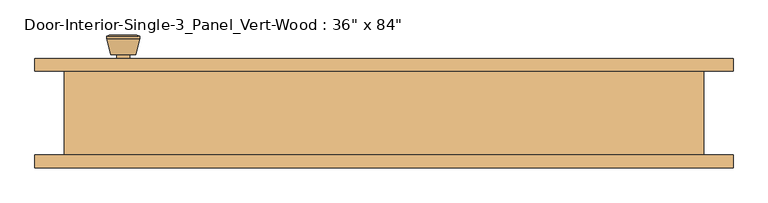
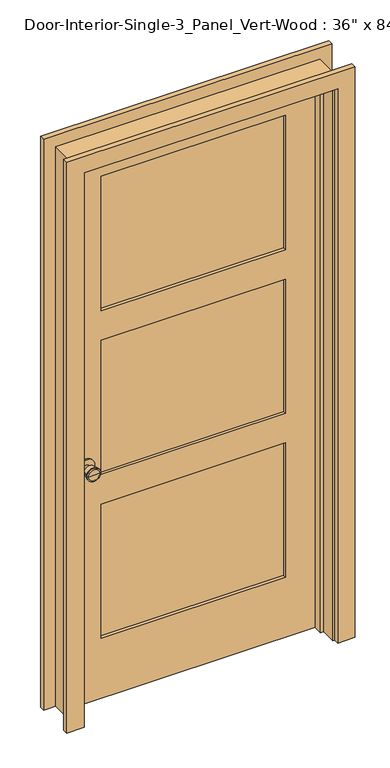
"""IFC4 building model written with IfcOpenShell, lengths in millimetres: door geometry."""

from ifc_helpers import new_model, si_unit, point, frame, frame_2d, origin, place, context, project, spatial, polyline, circle_curve, trimmed, segment, composite_curve, outline, extrude, faceted_brep, source, transform, mapped, element, save
from ifc_brep_helpers import plane_surface, cylinder_surface, revolved_surface, advanced_brep


def door_074fb280(model_context):
    return source(origin(), model_context, "Body", "SolidModel", [
        advanced_brep(
        [(-393.7, 19.4, 914.4), (-383.7, 19.4, 914.4), (-403.7, 19.4, 914.4), (-373.2241324, -29.6, 914.4), (-393.7, -29.6, 914.4), (-414.1758676, -29.6, 914.4), (-368.7, -27.7721319, 914.4), (-418.7, -27.7721319, 914.4), (-368.7, -24.3084537, 914.4), (-418.7, -24.3084537, 914.4), (-375.063764, 0.4, 914.4), (-412.336236, 0.4, 914.4), (-383.7, 0.4, 914.4), (-403.7, 0.4, 914.4)],
        [
            (0, 1),
            (1, 2, circle_curve(frame((-393.7, 19.4, 914.4), z_axis=(0.0, 1.0, 0.0), x_axis=(-1.0, 0.0, 0.0)), 10.0)),
            (2, 0),
            (2, 1, circle_curve(frame((-393.7, 19.4, 914.4), z_axis=(0.0, 1.0, 0.0), x_axis=(-1.0, 0.0, 0.0)), 10.0)),
            (3, 4),
            (4, 5),
            (5, 3, circle_curve(frame((-393.7, -29.6, 914.4), z_axis=(0.0, -1.0, 0.0), x_axis=(-1.0, 0.0, 0.0)), 20.4758676)),
            (3, 5, circle_curve(frame((-393.7, -29.6, 914.4), z_axis=(0.0, -1.0, 0.0), x_axis=(-1.0, 0.0, 0.0)), 20.4758676)),
            (6, 3),
            (5, 7),
            (7, 6, circle_curve(frame((-393.7, -27.7721319, 914.4), z_axis=(0.0, -1.0, 0.0), x_axis=(-1.0, 0.0, 0.0)), 25.0)),
            (6, 7, circle_curve(frame((-393.7, -27.7721319, 914.4), z_axis=(0.0, -1.0, 0.0), x_axis=(-1.0, 0.0, 0.0)), 25.0)),
            (8, 6),
            (7, 9),
            (9, 8, circle_curve(frame((-393.7, -24.3084537, 914.4), z_axis=(0.0, -1.0, 0.0), x_axis=(-1.0, 0.0, 0.0)), 25.0)),
            (8, 9, circle_curve(frame((-393.7, -24.3084537, 914.4), z_axis=(0.0, -1.0, 0.0), x_axis=(-1.0, 0.0, 0.0)), 25.0)),
            (10, 8),
            (9, 11),
            (11, 10, circle_curve(frame((-393.7, 0.4, 914.4), z_axis=(0.0, -1.0, 0.0), x_axis=(-1.0, 0.0, 0.0)), 18.636236)),
            (10, 11, circle_curve(frame((-393.7, 0.4, 914.4), z_axis=(0.0, -1.0, 0.0), x_axis=(-1.0, 0.0, 0.0)), 18.636236)),
            (12, 10),
            (11, 13),
            (13, 12, circle_curve(frame((-393.7, 0.4, 914.4), z_axis=(0.0, -1.0, 0.0), x_axis=(-1.0, 0.0, 0.0)), 10.0)),
            (12, 13, circle_curve(frame((-393.7, 0.4, 914.4), z_axis=(0.0, -1.0, 0.0), x_axis=(-1.0, 0.0, 0.0)), 10.0)),
            (1, 12),
            (13, 2),
        ],
        [
            plane_surface(frame((-393.7, 19.4, 914.4), z_axis=(0.0, 1.0, 0.0), x_axis=(-1.0, 0.0, 0.0))),
            plane_surface(frame((-393.7, -29.6, 914.4), z_axis=(0.0, -1.0, 0.0), x_axis=(-1.0, 0.0, 0.0))),
            revolved_surface(polyline([(-414.1758676, -29.6, 914.4), (-418.7, -27.7721319, 914.4)]), (-393.7, 19.4, 914.4), (0.0, 1.0, 0.0)),
            cylinder_surface(frame((-393.7, 19.4, 914.4), z_axis=(0.0, 1.0, 0.0), x_axis=(-1.0, 0.0, 0.0)), 25.0),
            revolved_surface(polyline([(-418.7, -24.3084537, 914.4), (-412.336236, 0.4, 914.4)]), (-393.7, 19.4, 914.4), (0.0, 1.0, 0.0)),
            plane_surface(frame((-393.7, 0.4, 914.4), z_axis=(0.0, 1.0, 0.0), x_axis=(-1.0, 0.0, 0.0))),
            cylinder_surface(frame((-393.7, 19.4, 914.4), z_axis=(0.0, 1.0, 0.0), x_axis=(-1.0, 0.0, 0.0)), 10.0),
        ],
        [
            (0, [[1, 2, 3]]),
            (0, [[-3, 4, -1]]),
            (1, [[5, 6, 7]]),
            (1, [[-6, -5, 8]]),
            (2, [[9, -7, 10, 11]]),
            (2, [[-10, -8, -9, 12]]),
            (3, [[13, -11, 14, 15]]),
            (3, [[-14, -12, -13, 16]]),
            (4, [[17, -15, 18, 19]]),
            (4, [[-18, -16, -17, 20]]),
            (5, [[21, -19, 22, 23]]),
            (5, [[-22, -20, -21, 24]]),
            (6, [[25, -23, 26, -2]]),
            (6, [[-26, -24, -25, -4]]),
        ],
    ),
        extrude(outline(composite_curve([segment(trimmed(circle_curve(frame_2d((914.4, -393.7)), 30.0), [point((914.4, -423.7))], [point((914.4, -363.7))], False, "CARTESIAN"), True, "CONTINUOUS"), segment(trimmed(circle_curve(frame_2d((914.4, -393.7)), 30.0), [point((914.4, -363.7))], [point((914.4, -423.7))], False, "CARTESIAN"), True, "CONTINUOUS")], self_intersect=False)), frame((0.0, 19.4, 0.0), z_axis=(0.0, 1.0, 0.0), x_axis=(0.0, 0.0, 1.0)), (0.0, 0.0, 1.0), 6.0),
        advanced_brep(
        [(-393.7, 66.325, 914.4), (-403.7, 66.325, 914.4), (-383.7, 66.325, 914.4), (-373.2241324, 115.325, 914.4), (-414.1758676, 115.325, 914.4), (-393.7, 115.325, 914.4), (-368.7, 113.4971319, 914.4), (-418.7, 113.4971319, 914.4), (-368.7, 110.0334537, 914.4), (-418.7, 110.0334537, 914.4), (-375.063764, 85.325, 914.4), (-412.336236, 85.325, 914.4), (-383.7, 85.325, 914.4), (-403.7, 85.325, 914.4)],
        [
            (0, 1),
            (1, 2, circle_curve(frame((-393.7, 66.325, 914.4), z_axis=(0.0, -1.0, 0.0), x_axis=(-1.0, 0.0, 0.0)), 10.0)),
            (2, 0),
            (2, 1, circle_curve(frame((-393.7, 66.325, 914.4), z_axis=(0.0, -1.0, 0.0), x_axis=(-1.0, 0.0, 0.0)), 10.0)),
            (3, 4, circle_curve(frame((-393.7, 115.325, 914.4), z_axis=(0.0, 1.0, 0.0), x_axis=(-1.0, 0.0, 0.0)), 20.4758676)),
            (4, 5),
            (5, 3),
            (4, 3, circle_curve(frame((-393.7, 115.325, 914.4), z_axis=(0.0, 1.0, 0.0), x_axis=(-1.0, 0.0, 0.0)), 20.4758676)),
            (6, 7, circle_curve(frame((-393.7, 113.4971319, 914.4), z_axis=(0.0, 1.0, 0.0), x_axis=(-1.0, 0.0, 0.0)), 25.0)),
            (7, 4),
            (3, 6),
            (7, 6, circle_curve(frame((-393.7, 113.4971319, 914.4), z_axis=(0.0, 1.0, 0.0), x_axis=(-1.0, 0.0, 0.0)), 25.0)),
            (8, 9, circle_curve(frame((-393.7, 110.0334537, 914.4), z_axis=(0.0, 1.0, 0.0), x_axis=(-1.0, 0.0, 0.0)), 25.0)),
            (9, 7),
            (6, 8),
            (9, 8, circle_curve(frame((-393.7, 110.0334537, 914.4), z_axis=(0.0, 1.0, 0.0), x_axis=(-1.0, 0.0, 0.0)), 25.0)),
            (10, 11, circle_curve(frame((-393.7, 85.325, 914.4), z_axis=(0.0, 1.0, 0.0), x_axis=(-1.0, 0.0, 0.0)), 18.636236)),
            (11, 9),
            (8, 10),
            (11, 10, circle_curve(frame((-393.7, 85.325, 914.4), z_axis=(0.0, 1.0, 0.0), x_axis=(-1.0, 0.0, 0.0)), 18.636236)),
            (12, 13, circle_curve(frame((-393.7, 85.325, 914.4), z_axis=(0.0, 1.0, 0.0), x_axis=(-1.0, 0.0, 0.0)), 10.0)),
            (13, 11),
            (10, 12),
            (13, 12, circle_curve(frame((-393.7, 85.325, 914.4), z_axis=(0.0, 1.0, 0.0), x_axis=(-1.0, 0.0, 0.0)), 10.0)),
            (1, 13),
            (12, 2),
        ],
        [
            plane_surface(frame((-393.7, 66.325, 914.4), z_axis=(0.0, -1.0, 0.0), x_axis=(-1.0, 0.0, 0.0))),
            plane_surface(frame((-393.7, 115.325, 914.4), z_axis=(0.0, 1.0, 0.0), x_axis=(-1.0, 0.0, 0.0))),
            revolved_surface(polyline([(-414.1758676, 115.325, 914.4), (-418.7, 113.4971319, 914.4)]), (-393.7, 66.325, 914.4), (0.0, -1.0, 0.0)),
            cylinder_surface(frame((-393.7, 66.325, 914.4), z_axis=(0.0, -1.0, 0.0), x_axis=(-1.0, 0.0, 0.0)), 25.0),
            revolved_surface(polyline([(-418.7, 110.0334537, 914.4), (-412.336236, 85.325, 914.4)]), (-393.7, 66.325, 914.4), (0.0, -1.0, 0.0)),
            plane_surface(frame((-393.7, 85.325, 914.4), z_axis=(0.0, -1.0, 0.0), x_axis=(-1.0, 0.0, 0.0))),
            cylinder_surface(frame((-393.7, 66.325, 914.4), z_axis=(0.0, -1.0, 0.0), x_axis=(-1.0, 0.0, 0.0)), 10.0),
        ],
        [
            (0, [[1, 2, 3]]),
            (0, [[-3, 4, -1]]),
            (1, [[5, 6, 7]]),
            (1, [[8, -7, -6]]),
            (2, [[9, 10, -5, 11]]),
            (2, [[12, -11, -8, -10]]),
            (3, [[13, 14, -9, 15]]),
            (3, [[16, -15, -12, -14]]),
            (4, [[17, 18, -13, 19]]),
            (4, [[20, -19, -16, -18]]),
            (5, [[21, 22, -17, 23]]),
            (5, [[24, -23, -20, -22]]),
            (6, [[-2, 25, -21, 26]]),
            (6, [[-4, -26, -24, -25]]),
        ],
    ),
        extrude(outline(composite_curve([segment(trimmed(circle_curve(frame_2d((914.4, -393.7)), 30.0), [point((914.4, -423.7))], [point((914.4, -363.7))], False, "CARTESIAN"), True, "CONTINUOUS"), segment(trimmed(circle_curve(frame_2d((914.4, -393.7)), 30.0), [point((914.4, -363.7))], [point((914.4, -423.7))], False, "CARTESIAN"), True, "CONTINUOUS")], self_intersect=False)), frame((0.0, 60.325, 0.0), z_axis=(0.0, 1.0, 0.0), x_axis=(0.0, 0.0, 1.0)), (0.0, 0.0, 1.0), 6.0),
        extrude(outline(polyline([(336.55, 37.0416667), (-336.55, 37.0416667), (-336.55, 48.6833333), (336.55, 48.6833333), (336.55, 37.0416667)])), frame((0.0, 0.0, 1496.4833333), z_axis=(0.0, 0.0, 1.0), x_axis=(1.0, 0.0, 0.0)), (0.0, 0.0, 1.0), 518.0541667),
        extrude(outline(polyline([(336.55, 37.0416667), (-336.55, 37.0416667), (-336.55, 48.6833333), (336.55, 48.6833333), (336.55, 37.0416667)])), frame((0.0, 0.0, 231.775), z_axis=(0.0, 0.0, 1.0), x_axis=(1.0, 0.0, 0.0)), (0.0, 0.0, 1.0), 518.0541667),
        extrude(outline(polyline([(336.55, 37.0416667), (-336.55, 37.0416667), (-336.55, 48.6833333), (336.55, 48.6833333), (336.55, 37.0416667)])), frame((0.0, 0.0, 864.1291667), z_axis=(0.0, 0.0, 1.0), x_axis=(1.0, 0.0, 0.0)), (0.0, 0.0, 1.0), 518.0541667),
        extrude(outline(polyline([(2133.6, -457.2), (0.0, -457.2), (0.0, 457.2), (2133.6, 457.2), (2133.6, -457.2)]), holes=[polyline([(2014.5375, -336.55), (2014.5375, 336.55), (1496.4833333, 336.55), (1496.4833333, -336.55), (2014.5375, -336.55)]), polyline([(749.8291667, -336.55), (749.8291667, 336.55), (231.775, 336.55), (231.775, -336.55), (749.8291667, -336.55)]), polyline([(1382.1833333, -336.55), (1382.1833333, 336.55), (864.1291667, 336.55), (864.1291667, -336.55), (1382.1833333, -336.55)])]), frame((0.0, 25.4, 0.0), z_axis=(0.0, 1.0, 0.0), x_axis=(0.0, 0.0, 1.0)), (0.0, 0.0, 1.0), 34.925),
        faceted_brep([(482.6, 60.325, 0.0), (482.6, -66.675, 0.0), (457.2, -66.675, 0.0), (457.2, -9.525, 0.0), (444.5, -9.525, 0.0), (444.5, 25.4, 0.0), (457.2, 25.4, 0.0), (457.2, 60.325, 0.0), (482.6, 60.325, 2159.0), (482.6, -66.675, 2159.0), (-482.6, -66.675, 2159.0), (-482.6, -66.675, 0.0), (-457.2, -66.675, 0.0), (-457.2, -66.675, 2133.6), (457.2, -66.675, 2133.6), (457.2, -9.525, 2133.6), (-457.2, -9.525, 2133.6), (-457.2, -9.525, 0.0), (-444.5, -9.525, 0.0), (-444.5, -9.525, 2120.9), (444.5, -9.525, 2120.9), (444.5, 25.4, 2120.9), (-444.5, 25.4, 2120.9), (-444.5, 25.4, 0.0), (-457.2, 25.4, 0.0), (-457.2, 25.4, 2133.6), (457.2, 25.4, 2133.6), (457.2, 60.325, 2133.6), (-457.2, 60.325, 2133.6), (-457.2, 60.325, 0.0), (-482.6, 60.325, 0.0), (-482.6, 60.325, 2159.0)], [[[0, 1, 2, 3, 4, 5, 6, 7]], [[1, 0, 8, 9]], [[2, 1, 9, 10, 11, 12, 13, 14]], [[3, 2, 14, 15]], [[4, 3, 15, 16, 17, 18, 19, 20]], [[5, 4, 20, 21]], [[6, 5, 21, 22, 23, 24, 25, 26]], [[7, 6, 26, 27]], [[0, 7, 27, 28, 29, 30, 31, 8]], [[9, 8, 31, 10]], [[15, 14, 13, 16]], [[21, 20, 19, 22]], [[27, 26, 25, 28]], [[30, 29, 24, 23, 18, 17, 12, 11]], [[10, 31, 30, 11]], [[16, 13, 12, 17]], [[22, 19, 18, 23]], [[28, 25, 24, 29]]]),
        extrude(outline(polyline([(0.0, 463.55), (0.0, 527.05), (2203.45, 527.05), (2203.45, -527.05), (0.0, -527.05), (0.0, -463.55), (2139.95, -463.55), (2139.95, 463.55), (0.0, 463.55)])), frame((0.0, -85.725, 0.0), z_axis=(0.0, 1.0, 0.0), x_axis=(0.0, 0.0, 1.0)), (0.0, 0.0, 1.0), 19.05),
        extrude(outline(polyline([(0.0, 463.55), (0.0, 527.05), (2203.45, 527.05), (2203.45, -527.05), (0.0, -527.05), (0.0, -463.55), (2139.95, -463.55), (2139.95, 463.55), (0.0, 463.55)])), frame((0.0, 60.325, 0.0), z_axis=(0.0, 1.0, 0.0), x_axis=(0.0, 0.0, 1.0)), (0.0, 0.0, 1.0), 19.05),
    ])


if __name__ == "__main__":
    model = new_model("IFC4")
    model_context = context("Model", 3, world=origin())
    ifc_project = project(units=[si_unit("LENGTHUNIT", "METRE", prefix="MILLI")], contexts=[model_context])
    site = spatial("IfcSite", under=ifc_project)
    building = spatial("IfcBuilding", under=site)
    placement = place(None, origin())
    door_shape = door_074fb280(model_context)
    element("IfcDoor", 1, ObjectType="Door-Interior-Single-3_Panel_Vert-Wood : 36\" x 84\"", at=placement, inside=building, context=model_context, shape_type="MappedRepresentation", body=[
        mapped(door_shape, transform((0.0, 0.0, 0.0), x_axis=(1.0, 0.0, 0.0), y_axis=(0.0, 1.0, 0.0), z_axis=(0.0, 0.0, 1.0))),
    ])
    save(model, "model.ifc")
